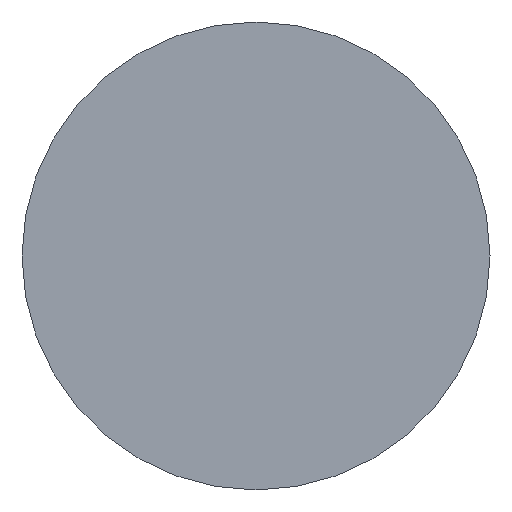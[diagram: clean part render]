
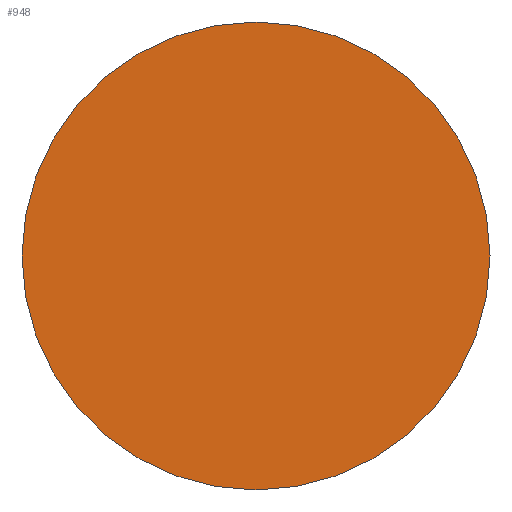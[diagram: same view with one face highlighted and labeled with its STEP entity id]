
A CAD part, top view. The second image highlights one B-rep face of the part: STEP entity #948.
In plain terms, the highlighted planar face has unit normal (0, 0, 1).
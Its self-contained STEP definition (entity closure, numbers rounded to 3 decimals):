
#77 = DIRECTION ( 'NONE',  ( -1., 0., 0. ) ) ;
#105 = CARTESIAN_POINT ( 'NONE',  ( -13., 0., 29. ) ) ;
#177 = DIRECTION ( 'NONE',  ( 0., 0., -1. ) ) ;
#200 = CARTESIAN_POINT ( 'NONE',  ( 0., 0., 29. ) ) ;
#272 = EDGE_LOOP ( 'NONE', ( #703 ) ) ;
#594 = FACE_OUTER_BOUND ( 'NONE', #272, .T. ) ;
#626 = AXIS2_PLACEMENT_3D ( 'NONE', #1644, #729, #1386 ) ;
#703 = ORIENTED_EDGE ( 'NONE', *, *, #1003, .F. ) ;
#729 = DIRECTION ( 'NONE',  ( 0., 0., -1. ) ) ;
#931 = CIRCLE ( 'NONE', #1487, 13. ) ;
#948 = ADVANCED_FACE ( 'NONE', ( #594 ), #1396, .F. ) ;
#1003 = EDGE_CURVE ( 'NONE', #1296, #1296, #931, .T. ) ;
#1296 = VERTEX_POINT ( 'NONE', #105 ) ;
#1386 = DIRECTION ( 'NONE',  ( -1., 0., 0. ) ) ;
#1396 = PLANE ( 'NONE',  #626 ) ;
#1487 = AXIS2_PLACEMENT_3D ( 'NONE', #200, #177, #77 ) ;
#1644 = CARTESIAN_POINT ( 'NONE',  ( 13., 0., 29. ) ) ;
